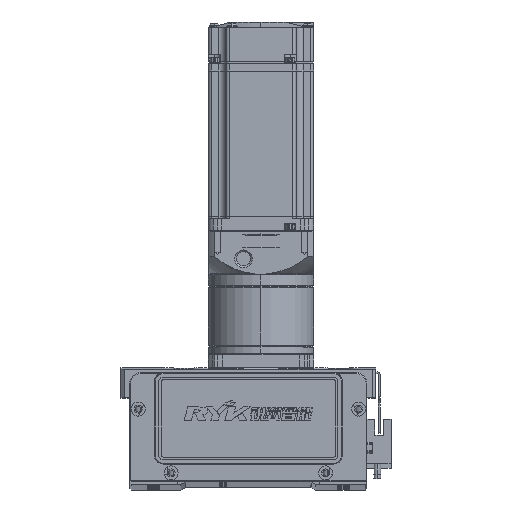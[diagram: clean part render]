
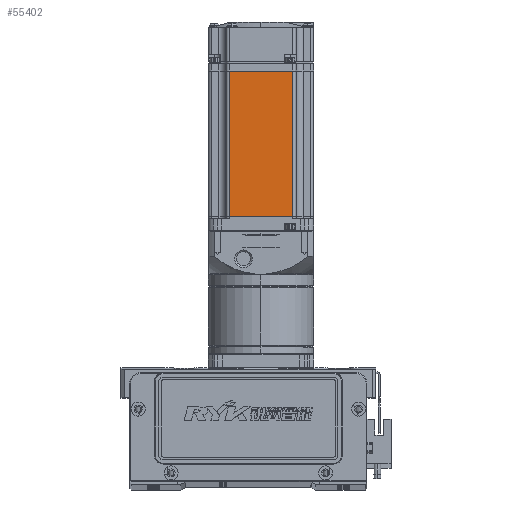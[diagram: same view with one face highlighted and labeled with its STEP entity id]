
A CAD part, top view. The second image highlights one B-rep face of the part: STEP entity #55402.
In plain terms, the highlighted planar face has unit normal (0, 0, 1).
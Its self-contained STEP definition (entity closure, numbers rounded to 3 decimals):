
#1005 = LINE ( 'NONE', #65933, #50775 ) ;
#2532 = VECTOR ( 'NONE', #72874, 1000. ) ;
#3869 = EDGE_CURVE ( 'NONE', #45041, #63762, #17294, .T. ) ;
#7480 = DIRECTION ( 'NONE',  ( -1., 0., 0. ) ) ;
#7764 = CARTESIAN_POINT ( 'NONE',  ( -6.5, -18., 30. ) ) ;
#9440 = ORIENTED_EDGE ( 'NONE', *, *, #19109, .F. ) ;
#11719 = CARTESIAN_POINT ( 'NONE',  ( -7.75, 18., 30. ) ) ;
#14176 = LINE ( 'NONE', #52590, #81192 ) ;
#17294 = LINE ( 'NONE', #7764, #21314 ) ;
#19109 = EDGE_CURVE ( 'NONE', #28994, #45041, #45107, .T. ) ;
#21314 = VECTOR ( 'NONE', #7480, 1000. ) ;
#22126 = VERTEX_POINT ( 'NONE', #25544 ) ;
#25544 = CARTESIAN_POINT ( 'NONE',  ( -90.45, 18., 30. ) ) ;
#28179 = ORIENTED_EDGE ( 'NONE', *, *, #57034, .T. ) ;
#28260 = CARTESIAN_POINT ( 'NONE',  ( -7.75, 0., 30. ) ) ;
#28994 = VERTEX_POINT ( 'NONE', #11719 ) ;
#41032 = AXIS2_PLACEMENT_3D ( 'NONE', #55034, #42545, #62423 ) ;
#41387 = FACE_OUTER_BOUND ( 'NONE', #56572, .T. ) ;
#42545 = DIRECTION ( 'NONE',  ( 0., 0., 1. ) ) ;
#43918 = ORIENTED_EDGE ( 'NONE', *, *, #3869, .F. ) ;
#45041 = VERTEX_POINT ( 'NONE', #52877 ) ;
#45107 = LINE ( 'NONE', #28260, #2532 ) ;
#48771 = PLANE ( 'NONE',  #41032 ) ;
#49003 = EDGE_CURVE ( 'NONE', #22126, #63762, #14176, .T. ) ;
#50775 = VECTOR ( 'NONE', #59402, 1000. ) ;
#52590 = CARTESIAN_POINT ( 'NONE',  ( -90.45, 0., 30. ) ) ;
#52877 = CARTESIAN_POINT ( 'NONE',  ( -7.75, -18., 30. ) ) ;
#55034 = CARTESIAN_POINT ( 'NONE',  ( -6.5, -25., 30. ) ) ;
#55402 = ADVANCED_FACE ( 'NONE', ( #41387 ), #48771, .T. ) ;
#56572 = EDGE_LOOP ( 'NONE', ( #9440, #28179, #78254, #43918 ) ) ;
#57034 = EDGE_CURVE ( 'NONE', #28994, #22126, #1005, .T. ) ;
#58879 = DIRECTION ( 'NONE',  ( 0., -1., 0. ) ) ;
#59402 = DIRECTION ( 'NONE',  ( -1., 0., 0. ) ) ;
#60273 = CARTESIAN_POINT ( 'NONE',  ( -90.45, -18., 30. ) ) ;
#62423 = DIRECTION ( 'NONE',  ( 1., 0., 0. ) ) ;
#63762 = VERTEX_POINT ( 'NONE', #60273 ) ;
#65933 = CARTESIAN_POINT ( 'NONE',  ( -6.5, 18., 30. ) ) ;
#72874 = DIRECTION ( 'NONE',  ( 0., -1., 0. ) ) ;
#78254 = ORIENTED_EDGE ( 'NONE', *, *, #49003, .T. ) ;
#81192 = VECTOR ( 'NONE', #58879, 1000. ) ;
